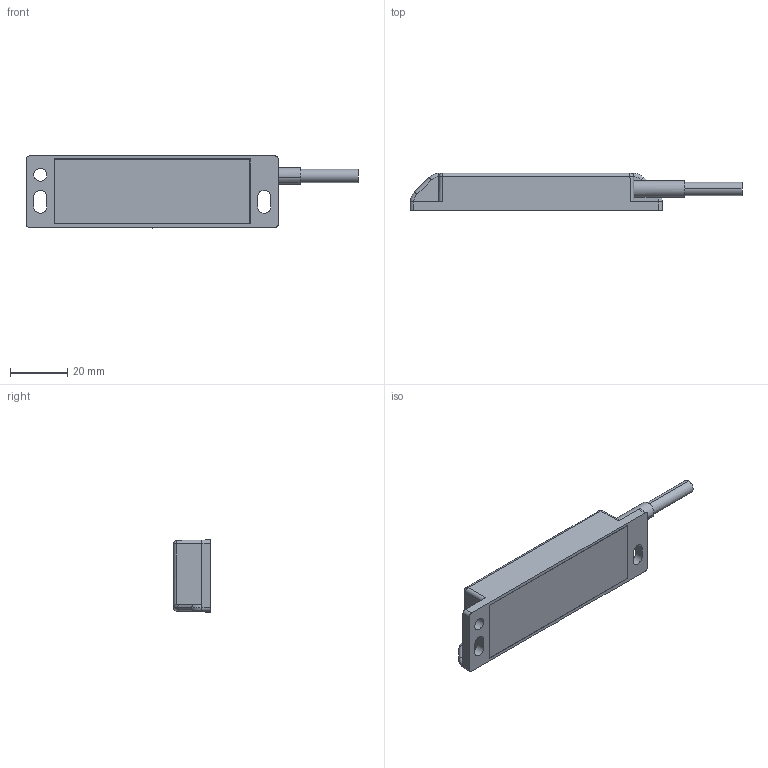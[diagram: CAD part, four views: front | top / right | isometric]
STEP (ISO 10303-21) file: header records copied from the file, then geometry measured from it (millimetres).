
FILE_DESCRIPTION((''),'2;1');
FILE_NAME('6490642351_SW0001','2024-01-16T14:59:26',('markus.finger'),(''),'CREO PARAMETRIC BY PTC INC, 2022124','CREO PARAMETRIC BY PTC INC, 2022124','');
FILE_SCHEMA(('AUTOMOTIVE_DESIGN { 1 0 10303 214 1 1 1 1 }'));
Length unit declared in the file: millimetre
Products named in the file (1): 6490642351_SW0001
Bounding box: 116 x 13.1 x 25.2 mm (x, y, z)
Volume: 24497.7 mm3; surface area: 8200.1 mm2
Topology: 1 solids, 1 shells, 69 faces, 170 edges, 107 vertices
Faces by surface type: plane 33, cylinder 26, bspline 8, sphere 2
Entity records: 3030 total; most frequent: CARTESIAN_POINT 897, ORIENTED_EDGE 340, DIRECTION 316, EDGE_CURVE 170, COLOUR_RGB 142, AXIS2_PLACEMENT_3D 107, VERTEX_POINT 107, VECTOR 99
